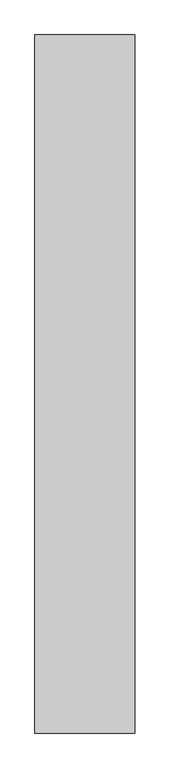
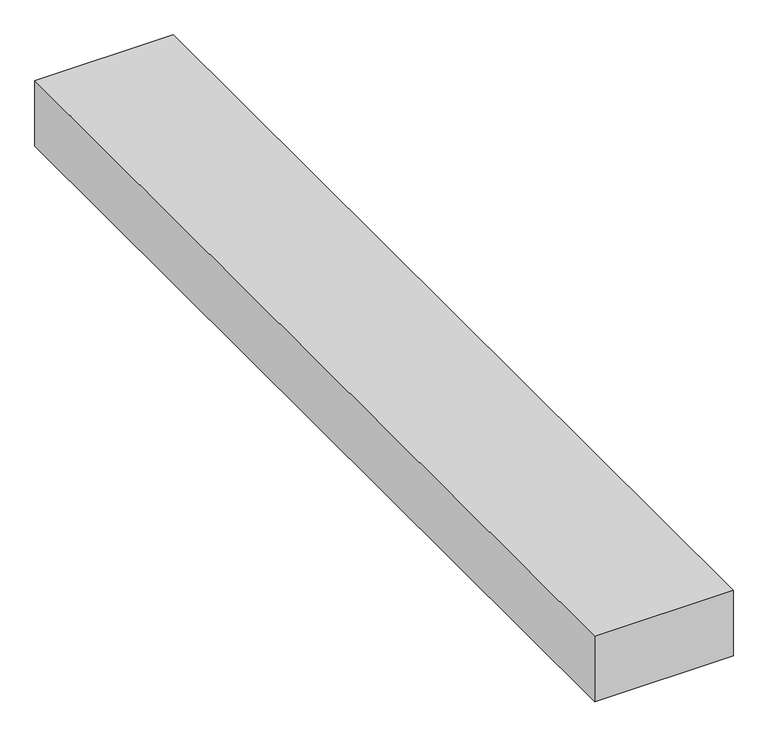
"""IFC4 building model written with IfcOpenShell, lengths in millimetres: stair geometry, 楼梯 3 : 楼梯 3."""

from ifc_helpers import new_model, si_unit, frame, origin, place, context, project, spatial, polyline, outline, extrude, source, transform, mapped, element, save


def stair_664da505(model_context):
    return source(origin(), model_context, "Body", "SweptSolid", [
        extrude(outline(polyline([(36865.1052473, -5748.768361), (36565.1052473, -5748.768361), (36565.1052473, -3648.768361), (36865.1052473, -3648.768361), (36865.1052473, -5748.768361)])), frame((0.0, 0.0, -300.0), z_axis=(0.0, 0.0, 1.0), x_axis=(1.0, 0.0, 0.0)), (0.0, 0.0, 1.0), 150.0),
    ])


if __name__ == "__main__":
    model = new_model("IFC4")
    model_context = context("Model", 3, world=origin())
    ifc_project = project(units=[si_unit("LENGTHUNIT", "METRE", prefix="MILLI")], contexts=[model_context])
    site = spatial("IfcSite", under=ifc_project)
    building = spatial("IfcBuilding", under=site)
    placement = place(None, origin())
    stair_shape = stair_664da505(model_context)
    element("IfcStair", 1, ObjectType="楼梯 3 : 楼梯 3", at=placement, inside=building, context=model_context, shape_type="MappedRepresentation", body=[
        mapped(stair_shape, transform((0.0, 0.0, 0.0), x_axis=(1.0, 0.0, 0.0), y_axis=(0.0, 1.0, 0.0), z_axis=(0.0, 0.0, 1.0))),
    ])
    save(model, "model.ifc")
